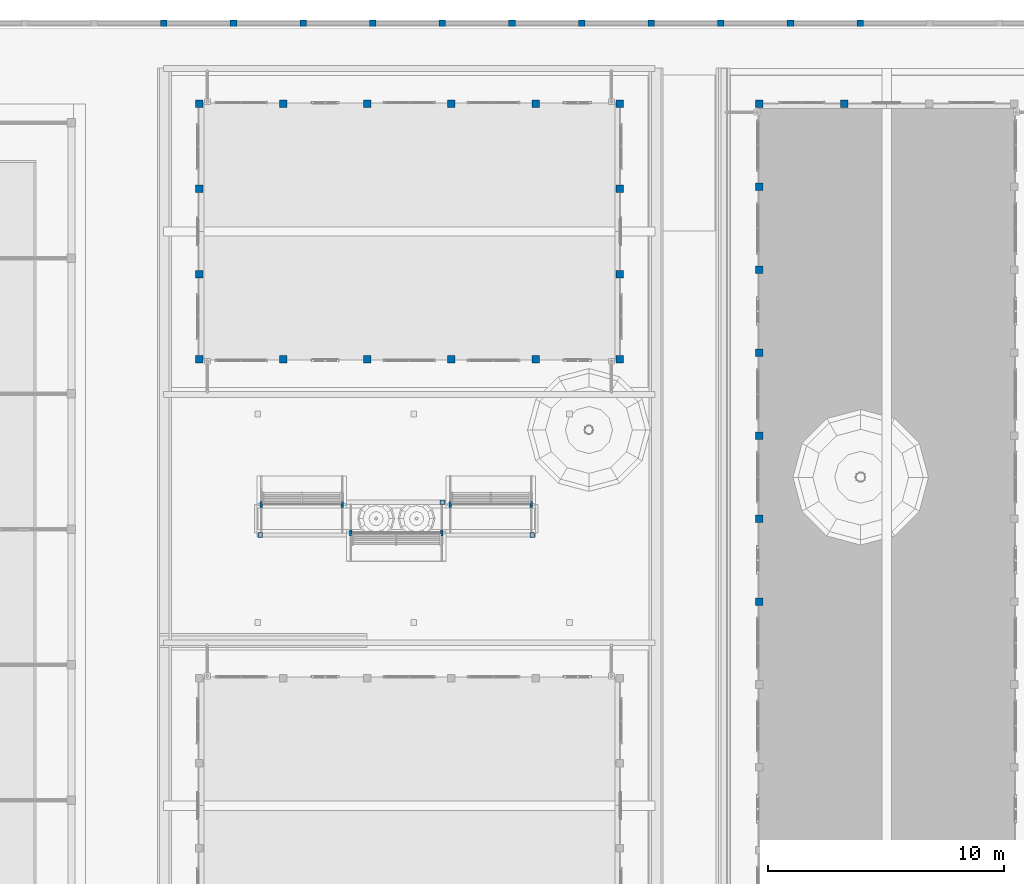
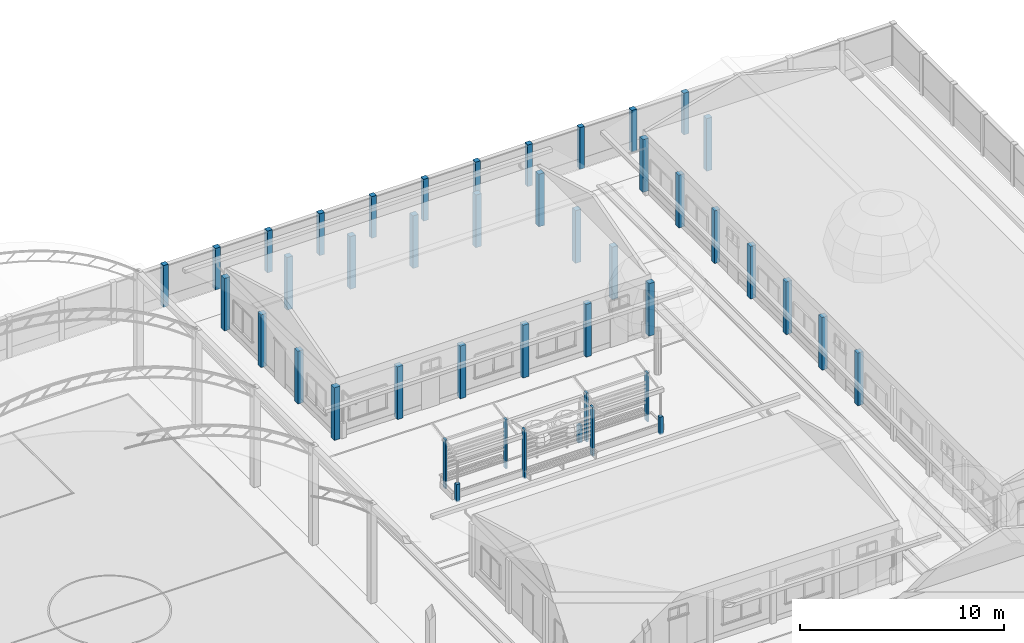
# One storey, part 11 of 177: 49 columns.
"""IFC4 building model written with IfcOpenShell, lengths in metres."""

from ifc_helpers import new_model, si_unit, origin, origin_with_axes, place, context, subcontext, project, spatial, triangles, element, save


model = new_model("IFC4")

# Units and contexts
model_context = context("Model", 3, precision=1e-05, world=origin_with_axes())
body_context = subcontext(model_context, "Body", "Model", "MODEL_VIEW")
ifc_project = project(units=[si_unit("LENGTHUNIT", "METRE"), si_unit("AREAUNIT", "SQUARE_METRE"), si_unit("VOLUMEUNIT", "CUBIC_METRE"), si_unit("PLANEANGLEUNIT", "RADIAN")], contexts=[model_context])

# Site, building, storey
site_placement = place(None, origin_with_axes())
site = spatial("IfcSite", under=ifc_project, at=site_placement, Name="Predio Los Mangos - Morales, San Martín", CompositionType="ELEMENT")
building_placement = place(site_placement, origin())
building = spatial("IfcBuilding", under=site, at=building_placement, Name="Hogar de Refugio Temporal", CompositionType="ELEMENT")
storey_placement = place(building_placement, origin())
storey = spatial("IfcBuildingStorey", under=building, at=storey_placement, Name="NIVEL 1 (NPT +0.00)", CompositionType="ELEMENT", Elevation=0.0)

# Columns
column_1_placement = place(storey_placement, origin())
element("IfcColumn", 1, at=column_1_placement, inside=storey, Name="E-08_col", ObjectType="Columna", PredefinedType="COLUMN", context=body_context, shape_type="Tessellation", body=[
    triangles([(31.84, 116.84, 0.15), (32.16, 116.84, 0.15), (32.16, 117.16, 0.15), (31.84, 117.16, 0.15), (31.84, 116.84, 3.3), (32.16, 116.84, 3.3), (32.16, 117.16, 3.3), (31.84, 117.16, 3.3)], [[1, 4, 3], [1, 3, 2], [5, 6, 7], [5, 7, 8], [1, 2, 6], [1, 6, 5], [2, 3, 7], [2, 7, 6], [3, 4, 8], [3, 8, 7], [4, 1, 5], [4, 5, 8]]),
])
column_2_placement = place(storey_placement, origin())
element("IfcColumn", 2, at=column_2_placement, inside=storey, Name="E-08_col", ObjectType="Columna", PredefinedType="COLUMN", context=body_context, shape_type="Tessellation", body=[
    triangles([(35.4, 116.84, 0.15), (35.72, 116.84, 0.15), (35.72, 117.16, 0.15), (35.4, 117.16, 0.15), (35.4, 116.84, 3.3), (35.72, 116.84, 3.3), (35.72, 117.16, 3.3), (35.4, 117.16, 3.3)], [[1, 4, 3], [1, 3, 2], [5, 6, 7], [5, 7, 8], [1, 2, 6], [1, 6, 5], [2, 3, 7], [2, 7, 6], [3, 4, 8], [3, 8, 7], [4, 1, 5], [4, 5, 8]]),
])
column_3_placement = place(storey_placement, origin())
element("IfcColumn", 3, at=column_3_placement, inside=storey, Name="E-08_col", ObjectType="Columna", PredefinedType="COLUMN", context=body_context, shape_type="Tessellation", body=[
    triangles([(38.96, 116.84, 0.15), (39.28, 116.84, 0.15), (39.28, 117.16, 0.15), (38.96, 117.16, 0.15), (38.96, 116.84, 3.3), (39.28, 116.84, 3.3), (39.28, 117.16, 3.3), (38.96, 117.16, 3.3)], [[1, 4, 3], [1, 3, 2], [5, 6, 7], [5, 7, 8], [1, 2, 6], [1, 6, 5], [2, 3, 7], [2, 7, 6], [3, 4, 8], [3, 8, 7], [4, 1, 5], [4, 5, 8]]),
])
column_4_placement = place(storey_placement, origin())
element("IfcColumn", 4, at=column_4_placement, inside=storey, Name="E-08_col", ObjectType="Columna", PredefinedType="COLUMN", context=body_context, shape_type="Tessellation", body=[
    triangles([(42.52, 116.84, 0.15), (42.84, 116.84, 0.15), (42.84, 117.16, 0.15), (42.52, 117.16, 0.15), (42.52, 116.84, 3.3), (42.84, 116.84, 3.3), (42.84, 117.16, 3.3), (42.52, 117.16, 3.3)], [[1, 4, 3], [1, 3, 2], [5, 6, 7], [5, 7, 8], [1, 2, 6], [1, 6, 5], [2, 3, 7], [2, 7, 6], [3, 4, 8], [3, 8, 7], [4, 1, 5], [4, 5, 8]]),
])
column_5_placement = place(storey_placement, origin())
element("IfcColumn", 5, at=column_5_placement, inside=storey, Name="E-08_col", ObjectType="Columna", PredefinedType="COLUMN", context=body_context, shape_type="Tessellation", body=[
    triangles([(46.08, 116.84, 0.15), (46.4, 116.84, 0.15), (46.4, 117.16, 0.15), (46.08, 117.16, 0.15), (46.08, 116.84, 3.3), (46.4, 116.84, 3.3), (46.4, 117.16, 3.3), (46.08, 117.16, 3.3)], [[1, 4, 3], [1, 3, 2], [5, 6, 7], [5, 7, 8], [1, 2, 6], [1, 6, 5], [2, 3, 7], [2, 7, 6], [3, 4, 8], [3, 8, 7], [4, 1, 5], [4, 5, 8]]),
])
column_6_placement = place(storey_placement, origin())
element("IfcColumn", 6, at=column_6_placement, inside=storey, Name="E-08_col", ObjectType="Columna", PredefinedType="COLUMN", context=body_context, shape_type="Tessellation", body=[
    triangles([(49.64, 116.84, 0.15), (49.96, 116.84, 0.15), (49.96, 117.16, 0.15), (49.64, 117.16, 0.15), (49.64, 116.84, 3.3), (49.96, 116.84, 3.3), (49.96, 117.16, 3.3), (49.64, 117.16, 3.3)], [[1, 4, 3], [1, 3, 2], [5, 6, 7], [5, 7, 8], [1, 2, 6], [1, 6, 5], [2, 3, 7], [2, 7, 6], [3, 4, 8], [3, 8, 7], [4, 1, 5], [4, 5, 8]]),
])
column_7_placement = place(storey_placement, origin())
element("IfcColumn", 7, at=column_7_placement, inside=storey, Name="E-08_col", ObjectType="Columna", PredefinedType="COLUMN", context=body_context, shape_type="Tessellation", body=[
    triangles([(31.84, 127.64, 0.15), (32.16, 127.64, 0.15), (32.16, 127.96, 0.15), (31.84, 127.96, 0.15), (31.84, 127.64, 3.3), (32.16, 127.64, 3.3), (32.16, 127.96, 3.3), (31.84, 127.96, 3.3)], [[1, 4, 3], [1, 3, 2], [5, 6, 7], [5, 7, 8], [1, 2, 6], [1, 6, 5], [2, 3, 7], [2, 7, 6], [3, 4, 8], [3, 8, 7], [4, 1, 5], [4, 5, 8]]),
])
column_8_placement = place(storey_placement, origin())
element("IfcColumn", 8, at=column_8_placement, inside=storey, Name="E-08_col", ObjectType="Columna", PredefinedType="COLUMN", context=body_context, shape_type="Tessellation", body=[
    triangles([(35.4, 127.64, 0.15), (35.72, 127.64, 0.15), (35.72, 127.96, 0.15), (35.4, 127.96, 0.15), (35.4, 127.64, 3.3), (35.72, 127.64, 3.3), (35.72, 127.96, 3.3), (35.4, 127.96, 3.3)], [[1, 4, 3], [1, 3, 2], [5, 6, 7], [5, 7, 8], [1, 2, 6], [1, 6, 5], [2, 3, 7], [2, 7, 6], [3, 4, 8], [3, 8, 7], [4, 1, 5], [4, 5, 8]]),
])
column_9_placement = place(storey_placement, origin())
element("IfcColumn", 9, at=column_9_placement, inside=storey, Name="E-08_col", ObjectType="Columna", PredefinedType="COLUMN", context=body_context, shape_type="Tessellation", body=[
    triangles([(38.96, 127.64, 0.15), (39.28, 127.64, 0.15), (39.28, 127.96, 0.15), (38.96, 127.96, 0.15), (38.96, 127.64, 3.3), (39.28, 127.64, 3.3), (39.28, 127.96, 3.3), (38.96, 127.96, 3.3)], [[1, 4, 3], [1, 3, 2], [5, 6, 7], [5, 7, 8], [1, 2, 6], [1, 6, 5], [2, 3, 7], [2, 7, 6], [3, 4, 8], [3, 8, 7], [4, 1, 5], [4, 5, 8]]),
])
column_10_placement = place(storey_placement, origin())
element("IfcColumn", 10, at=column_10_placement, inside=storey, Name="E-08_col", ObjectType="Columna", PredefinedType="COLUMN", context=body_context, shape_type="Tessellation", body=[
    triangles([(42.52, 127.64, 0.15), (42.84, 127.64, 0.15), (42.84, 127.96, 0.15), (42.52, 127.96, 0.15), (42.52, 127.64, 3.3), (42.84, 127.64, 3.3), (42.84, 127.96, 3.3), (42.52, 127.96, 3.3)], [[1, 4, 3], [1, 3, 2], [5, 6, 7], [5, 7, 8], [1, 2, 6], [1, 6, 5], [2, 3, 7], [2, 7, 6], [3, 4, 8], [3, 8, 7], [4, 1, 5], [4, 5, 8]]),
])
column_11_placement = place(storey_placement, origin())
element("IfcColumn", 11, at=column_11_placement, inside=storey, Name="E-08_col", ObjectType="Columna", PredefinedType="COLUMN", context=body_context, shape_type="Tessellation", body=[
    triangles([(46.08, 127.64, 0.15), (46.4, 127.64, 0.15), (46.4, 127.96, 0.15), (46.08, 127.96, 0.15), (46.08, 127.64, 3.3), (46.4, 127.64, 3.3), (46.4, 127.96, 3.3), (46.08, 127.96, 3.3)], [[1, 4, 3], [1, 3, 2], [5, 6, 7], [5, 7, 8], [1, 2, 6], [1, 6, 5], [2, 3, 7], [2, 7, 6], [3, 4, 8], [3, 8, 7], [4, 1, 5], [4, 5, 8]]),
])
column_12_placement = place(storey_placement, origin())
element("IfcColumn", 12, at=column_12_placement, inside=storey, Name="E-08_col", ObjectType="Columna", PredefinedType="COLUMN", context=body_context, shape_type="Tessellation", body=[
    triangles([(49.64, 127.64, 0.15), (49.96, 127.64, 0.15), (49.96, 127.96, 0.15), (49.64, 127.96, 0.15), (49.64, 127.64, 3.3), (49.96, 127.64, 3.3), (49.96, 127.96, 3.3), (49.64, 127.96, 3.3)], [[1, 4, 3], [1, 3, 2], [5, 6, 7], [5, 7, 8], [1, 2, 6], [1, 6, 5], [2, 3, 7], [2, 7, 6], [3, 4, 8], [3, 8, 7], [4, 1, 5], [4, 5, 8]]),
])
column_13_placement = place(storey_placement, origin())
element("IfcColumn", 13, at=column_13_placement, inside=storey, Name="E-08_col", ObjectType="Columna", PredefinedType="COLUMN", context=body_context, shape_type="Tessellation", body=[
    triangles([(31.84, 116.84, 0.15), (32.16, 116.84, 0.15), (32.16, 117.16, 0.15), (31.84, 117.16, 0.15), (31.84, 116.84, 3.3), (32.16, 116.84, 3.3), (32.16, 117.16, 3.3), (31.84, 117.16, 3.3)], [[1, 4, 3], [1, 3, 2], [5, 6, 7], [5, 7, 8], [1, 2, 6], [1, 6, 5], [2, 3, 7], [2, 7, 6], [3, 4, 8], [3, 8, 7], [4, 1, 5], [4, 5, 8]]),
])
column_14_placement = place(storey_placement, origin())
element("IfcColumn", 14, at=column_14_placement, inside=storey, Name="E-08_col", ObjectType="Columna", PredefinedType="COLUMN", context=body_context, shape_type="Tessellation", body=[
    triangles([(31.84, 120.44, 0.15), (32.16, 120.44, 0.15), (32.16, 120.76, 0.15), (31.84, 120.76, 0.15), (31.84, 120.44, 3.3), (32.16, 120.44, 3.3), (32.16, 120.76, 3.3), (31.84, 120.76, 3.3)], [[1, 4, 3], [1, 3, 2], [5, 6, 7], [5, 7, 8], [1, 2, 6], [1, 6, 5], [2, 3, 7], [2, 7, 6], [3, 4, 8], [3, 8, 7], [4, 1, 5], [4, 5, 8]]),
])
column_15_placement = place(storey_placement, origin())
element("IfcColumn", 15, at=column_15_placement, inside=storey, Name="E-08_col", ObjectType="Columna", PredefinedType="COLUMN", context=body_context, shape_type="Tessellation", body=[
    triangles([(31.84, 124.04, 0.15), (32.16, 124.04, 0.15), (32.16, 124.36, 0.15), (31.84, 124.36, 0.15), (31.84, 124.04, 3.3), (32.16, 124.04, 3.3), (32.16, 124.36, 3.3), (31.84, 124.36, 3.3)], [[1, 4, 3], [1, 3, 2], [5, 6, 7], [5, 7, 8], [1, 2, 6], [1, 6, 5], [2, 3, 7], [2, 7, 6], [3, 4, 8], [3, 8, 7], [4, 1, 5], [4, 5, 8]]),
])
column_16_placement = place(storey_placement, origin())
element("IfcColumn", 16, at=column_16_placement, inside=storey, Name="E-08_col", ObjectType="Columna", PredefinedType="COLUMN", context=body_context, shape_type="Tessellation", body=[
    triangles([(31.84, 127.64, 0.15), (32.16, 127.64, 0.15), (32.16, 127.96, 0.15), (31.84, 127.96, 0.15), (31.84, 127.64, 3.3), (32.16, 127.64, 3.3), (32.16, 127.96, 3.3), (31.84, 127.96, 3.3)], [[1, 4, 3], [1, 3, 2], [5, 6, 7], [5, 7, 8], [1, 2, 6], [1, 6, 5], [2, 3, 7], [2, 7, 6], [3, 4, 8], [3, 8, 7], [4, 1, 5], [4, 5, 8]]),
])
column_17_placement = place(storey_placement, origin())
element("IfcColumn", 17, at=column_17_placement, inside=storey, Name="E-08_col", ObjectType="Columna", PredefinedType="COLUMN", context=body_context, shape_type="Tessellation", body=[
    triangles([(49.64, 116.84, 0.15), (49.96, 116.84, 0.15), (49.96, 117.16, 0.15), (49.64, 117.16, 0.15), (49.64, 116.84, 3.3), (49.96, 116.84, 3.3), (49.96, 117.16, 3.3), (49.64, 117.16, 3.3)], [[1, 4, 3], [1, 3, 2], [5, 6, 7], [5, 7, 8], [1, 2, 6], [1, 6, 5], [2, 3, 7], [2, 7, 6], [3, 4, 8], [3, 8, 7], [4, 1, 5], [4, 5, 8]]),
])
column_18_placement = place(storey_placement, origin())
element("IfcColumn", 18, at=column_18_placement, inside=storey, Name="E-08_col", ObjectType="Columna", PredefinedType="COLUMN", context=body_context, shape_type="Tessellation", body=[
    triangles([(49.64, 120.44, 0.15), (49.96, 120.44, 0.15), (49.96, 120.76, 0.15), (49.64, 120.76, 0.15), (49.64, 120.44, 3.3), (49.96, 120.44, 3.3), (49.96, 120.76, 3.3), (49.64, 120.76, 3.3)], [[1, 4, 3], [1, 3, 2], [5, 6, 7], [5, 7, 8], [1, 2, 6], [1, 6, 5], [2, 3, 7], [2, 7, 6], [3, 4, 8], [3, 8, 7], [4, 1, 5], [4, 5, 8]]),
])
column_19_placement = place(storey_placement, origin())
element("IfcColumn", 19, at=column_19_placement, inside=storey, Name="E-08_col", ObjectType="Columna", PredefinedType="COLUMN", context=body_context, shape_type="Tessellation", body=[
    triangles([(49.64, 124.04, 0.15), (49.96, 124.04, 0.15), (49.96, 124.36, 0.15), (49.64, 124.36, 0.15), (49.64, 124.04, 3.3), (49.96, 124.04, 3.3), (49.96, 124.36, 3.3), (49.64, 124.36, 3.3)], [[1, 4, 3], [1, 3, 2], [5, 6, 7], [5, 7, 8], [1, 2, 6], [1, 6, 5], [2, 3, 7], [2, 7, 6], [3, 4, 8], [3, 8, 7], [4, 1, 5], [4, 5, 8]]),
])
column_20_placement = place(storey_placement, origin())
element("IfcColumn", 20, at=column_20_placement, inside=storey, Name="E-08_col", ObjectType="Columna", PredefinedType="COLUMN", context=body_context, shape_type="Tessellation", body=[
    triangles([(49.64, 127.64, 0.15), (49.96, 127.64, 0.15), (49.96, 127.96, 0.15), (49.64, 127.96, 0.15), (49.64, 127.64, 3.3), (49.96, 127.64, 3.3), (49.96, 127.96, 3.3), (49.64, 127.96, 3.3)], [[1, 4, 3], [1, 3, 2], [5, 6, 7], [5, 7, 8], [1, 2, 6], [1, 6, 5], [2, 3, 7], [2, 7, 6], [3, 4, 8], [3, 8, 7], [4, 1, 5], [4, 5, 8]]),
])
column_21_placement = place(storey_placement, origin())
element("IfcColumn", 21, at=column_21_placement, inside=storey, Name="E-07_col", ObjectType="Columna", PredefinedType="COLUMN", context=body_context, shape_type="Tessellation", body=[
    triangles([(55.54, 127.64, 0.15), (55.86, 127.64, 0.15), (55.86, 127.96, 0.15), (55.54, 127.96, 0.15), (55.54, 127.64, 3.3), (55.86, 127.64, 3.3), (55.86, 127.96, 3.3), (55.54, 127.96, 3.3)], [[1, 4, 3], [1, 3, 2], [5, 6, 7], [5, 7, 8], [1, 2, 6], [1, 6, 5], [2, 3, 7], [2, 7, 6], [3, 4, 8], [3, 8, 7], [4, 1, 5], [4, 5, 8]]),
])
column_22_placement = place(storey_placement, origin())
element("IfcColumn", 22, at=column_22_placement, inside=storey, Name="E-07_col", ObjectType="Columna", PredefinedType="COLUMN", context=body_context, shape_type="Tessellation", body=[
    triangles([(59.14, 127.64, 0.15), (59.46, 127.64, 0.15), (59.46, 127.96, 0.15), (59.14, 127.96, 0.15), (59.14, 127.64, 3.3), (59.46, 127.64, 3.3), (59.46, 127.96, 3.3), (59.14, 127.96, 3.3)], [[1, 4, 3], [1, 3, 2], [5, 6, 7], [5, 7, 8], [1, 2, 6], [1, 6, 5], [2, 3, 7], [2, 7, 6], [3, 4, 8], [3, 8, 7], [4, 1, 5], [4, 5, 8]]),
])
column_23_placement = place(storey_placement, origin())
element("IfcColumn", 23, at=column_23_placement, inside=storey, Name="E-07_col", ObjectType="Columna", PredefinedType="COLUMN", context=body_context, shape_type="Tessellation", body=[
    triangles([(55.54, 106.58, 0.15), (55.86, 106.58, 0.15), (55.86, 106.9, 0.15), (55.54, 106.9, 0.15), (55.54, 106.58, 3.3), (55.86, 106.58, 3.3), (55.86, 106.9, 3.3), (55.54, 106.9, 3.3)], [[1, 4, 3], [1, 3, 2], [5, 6, 7], [5, 7, 8], [1, 2, 6], [1, 6, 5], [2, 3, 7], [2, 7, 6], [3, 4, 8], [3, 8, 7], [4, 1, 5], [4, 5, 8]]),
])
column_24_placement = place(storey_placement, origin())
element("IfcColumn", 24, at=column_24_placement, inside=storey, Name="E-07_col", ObjectType="Columna", PredefinedType="COLUMN", context=body_context, shape_type="Tessellation", body=[
    triangles([(55.54, 110.09, 0.15), (55.86, 110.09, 0.15), (55.86, 110.41, 0.15), (55.54, 110.41, 0.15), (55.54, 110.09, 3.3), (55.86, 110.09, 3.3), (55.86, 110.41, 3.3), (55.54, 110.41, 3.3)], [[1, 4, 3], [1, 3, 2], [5, 6, 7], [5, 7, 8], [1, 2, 6], [1, 6, 5], [2, 3, 7], [2, 7, 6], [3, 4, 8], [3, 8, 7], [4, 1, 5], [4, 5, 8]]),
])
column_25_placement = place(storey_placement, origin())
element("IfcColumn", 25, at=column_25_placement, inside=storey, Name="E-07_col", ObjectType="Columna", PredefinedType="COLUMN", context=body_context, shape_type="Tessellation", body=[
    triangles([(55.54, 113.6, 0.15), (55.86, 113.6, 0.15), (55.86, 113.92, 0.15), (55.54, 113.92, 0.15), (55.54, 113.6, 3.3), (55.86, 113.6, 3.3), (55.86, 113.92, 3.3), (55.54, 113.92, 3.3)], [[1, 4, 3], [1, 3, 2], [5, 6, 7], [5, 7, 8], [1, 2, 6], [1, 6, 5], [2, 3, 7], [2, 7, 6], [3, 4, 8], [3, 8, 7], [4, 1, 5], [4, 5, 8]]),
])
column_26_placement = place(storey_placement, origin())
element("IfcColumn", 26, at=column_26_placement, inside=storey, Name="E-07_col", ObjectType="Columna", PredefinedType="COLUMN", context=body_context, shape_type="Tessellation", body=[
    triangles([(55.54, 117.11, 0.15), (55.86, 117.11, 0.15), (55.86, 117.43, 0.15), (55.54, 117.43, 0.15), (55.54, 117.11, 3.3), (55.86, 117.11, 3.3), (55.86, 117.43, 3.3), (55.54, 117.43, 3.3)], [[1, 4, 3], [1, 3, 2], [5, 6, 7], [5, 7, 8], [1, 2, 6], [1, 6, 5], [2, 3, 7], [2, 7, 6], [3, 4, 8], [3, 8, 7], [4, 1, 5], [4, 5, 8]]),
])
column_27_placement = place(storey_placement, origin())
element("IfcColumn", 27, at=column_27_placement, inside=storey, Name="E-07_col", ObjectType="Columna", PredefinedType="COLUMN", context=body_context, shape_type="Tessellation", body=[
    triangles([(55.54, 120.62, 0.15), (55.86, 120.62, 0.15), (55.86, 120.94, 0.15), (55.54, 120.94, 0.15), (55.54, 120.62, 3.3), (55.86, 120.62, 3.3), (55.86, 120.94, 3.3), (55.54, 120.94, 3.3)], [[1, 4, 3], [1, 3, 2], [5, 6, 7], [5, 7, 8], [1, 2, 6], [1, 6, 5], [2, 3, 7], [2, 7, 6], [3, 4, 8], [3, 8, 7], [4, 1, 5], [4, 5, 8]]),
])
column_28_placement = place(storey_placement, origin())
element("IfcColumn", 28, at=column_28_placement, inside=storey, Name="E-07_col", ObjectType="Columna", PredefinedType="COLUMN", context=body_context, shape_type="Tessellation", body=[
    triangles([(55.54, 124.13, 0.15), (55.86, 124.13, 0.15), (55.86, 124.45, 0.15), (55.54, 124.45, 0.15), (55.54, 124.13, 3.3), (55.86, 124.13, 3.3), (55.86, 124.45, 3.3), (55.54, 124.45, 3.3)], [[1, 4, 3], [1, 3, 2], [5, 6, 7], [5, 7, 8], [1, 2, 6], [1, 6, 5], [2, 3, 7], [2, 7, 6], [3, 4, 8], [3, 8, 7], [4, 1, 5], [4, 5, 8]]),
])
column_29_placement = place(storey_placement, origin())
element("IfcColumn", 29, at=column_29_placement, inside=storey, Name="E-07_col", ObjectType="Columna", PredefinedType="COLUMN", context=body_context, shape_type="Tessellation", body=[
    triangles([(55.54, 127.64, 0.15), (55.86, 127.64, 0.15), (55.86, 127.96, 0.15), (55.54, 127.96, 0.15), (55.54, 127.64, 3.3), (55.86, 127.64, 3.3), (55.86, 127.96, 3.3), (55.54, 127.96, 3.3)], [[1, 4, 3], [1, 3, 2], [5, 6, 7], [5, 7, 8], [1, 2, 6], [1, 6, 5], [2, 3, 7], [2, 7, 6], [3, 4, 8], [3, 8, 7], [4, 1, 5], [4, 5, 8]]),
])
column_30_placement = place(storey_placement, origin())
element("IfcColumn", 30, at=column_30_placement, inside=storey, Name="columna_cerco", ObjectType="Columna", PredefinedType="COLUMN", context=body_context, shape_type="Tessellation", body=[
    triangles([(60.115, 131.35, 0.0), (59.835, 131.35, 0.0), (59.835, 131.07, 0.0), (60.115, 131.07, 0.0), (60.115, 131.35, 2.5), (59.835, 131.35, 2.5), (59.835, 131.07, 2.5), (60.115, 131.07, 2.5)], [[1, 4, 3], [1, 3, 2], [5, 6, 7], [5, 7, 8], [1, 2, 6], [1, 6, 5], [2, 3, 7], [2, 7, 6], [3, 4, 8], [3, 8, 7], [4, 1, 5], [4, 5, 8]]),
])
column_31_placement = place(storey_placement, origin())
element("IfcColumn", 31, at=column_31_placement, inside=storey, Name="columna_cerco", ObjectType="Columna", PredefinedType="COLUMN", context=body_context, shape_type="Tessellation", body=[
    triangles([(57.1688, 131.35, 0.0), (56.8888, 131.35, 0.0), (56.8888, 131.07, 0.0), (57.1688, 131.07, 0.0), (57.1688, 131.35, 2.5), (56.8888, 131.35, 2.5), (56.8888, 131.07, 2.5), (57.1688, 131.07, 2.5)], [[1, 4, 3], [1, 3, 2], [5, 6, 7], [5, 7, 8], [1, 2, 6], [1, 6, 5], [2, 3, 7], [2, 7, 6], [3, 4, 8], [3, 8, 7], [4, 1, 5], [4, 5, 8]]),
])
column_32_placement = place(storey_placement, origin())
element("IfcColumn", 32, at=column_32_placement, inside=storey, Name="columna_cerco", ObjectType="Columna", PredefinedType="COLUMN", context=body_context, shape_type="Tessellation", body=[
    triangles([(54.2225, 131.35, 0.0), (53.9425, 131.35, 0.0), (53.9425, 131.07, 0.0), (54.2225, 131.07, 0.0), (54.2225, 131.35, 2.5), (53.9425, 131.35, 2.5), (53.9425, 131.07, 2.5), (54.2225, 131.07, 2.5)], [[1, 4, 3], [1, 3, 2], [5, 6, 7], [5, 7, 8], [1, 2, 6], [1, 6, 5], [2, 3, 7], [2, 7, 6], [3, 4, 8], [3, 8, 7], [4, 1, 5], [4, 5, 8]]),
])
column_33_placement = place(storey_placement, origin())
element("IfcColumn", 33, at=column_33_placement, inside=storey, Name="columna_cerco", ObjectType="Columna", PredefinedType="COLUMN", context=body_context, shape_type="Tessellation", body=[
    triangles([(51.2762, 131.35, 0.0), (50.9963, 131.35, 0.0), (50.9963, 131.07, 0.0), (51.2762, 131.07, 0.0), (51.2762, 131.35, 2.5), (50.9963, 131.35, 2.5), (50.9963, 131.07, 2.5), (51.2762, 131.07, 2.5)], [[1, 4, 3], [1, 3, 2], [5, 6, 7], [5, 7, 8], [1, 2, 6], [1, 6, 5], [2, 3, 7], [2, 7, 6], [3, 4, 8], [3, 8, 7], [4, 1, 5], [4, 5, 8]]),
])
column_34_placement = place(storey_placement, origin())
element("IfcColumn", 34, at=column_34_placement, inside=storey, Name="columna_cerco", ObjectType="Columna", PredefinedType="COLUMN", context=body_context, shape_type="Tessellation", body=[
    triangles([(48.33, 131.35, 0.0), (48.05, 131.35, 0.0), (48.05, 131.07, 0.0), (48.33, 131.07, 0.0), (48.33, 131.35, 2.5), (48.05, 131.35, 2.5), (48.05, 131.07, 2.5), (48.33, 131.07, 2.5)], [[1, 4, 3], [1, 3, 2], [5, 6, 7], [5, 7, 8], [1, 2, 6], [1, 6, 5], [2, 3, 7], [2, 7, 6], [3, 4, 8], [3, 8, 7], [4, 1, 5], [4, 5, 8]]),
])
column_35_placement = place(storey_placement, origin())
element("IfcColumn", 35, at=column_35_placement, inside=storey, Name="columna_cerco", ObjectType="Columna", PredefinedType="COLUMN", context=body_context, shape_type="Tessellation", body=[
    triangles([(45.3838, 131.35, 0.0), (45.1038, 131.35, 0.0), (45.1038, 131.07, 0.0), (45.3838, 131.07, 0.0), (45.3838, 131.35, 2.5), (45.1038, 131.35, 2.5), (45.1038, 131.07, 2.5), (45.3838, 131.07, 2.5)], [[1, 4, 3], [1, 3, 2], [5, 6, 7], [5, 7, 8], [1, 2, 6], [1, 6, 5], [2, 3, 7], [2, 7, 6], [3, 4, 8], [3, 8, 7], [4, 1, 5], [4, 5, 8]]),
])
column_36_placement = place(storey_placement, origin())
element("IfcColumn", 36, at=column_36_placement, inside=storey, Name="columna_cerco", ObjectType="Columna", PredefinedType="COLUMN", context=body_context, shape_type="Tessellation", body=[
    triangles([(42.4375, 131.35, 0.0), (42.1575, 131.35, 0.0), (42.1575, 131.07, 0.0), (42.4375, 131.07, 0.0), (42.4375, 131.35, 2.5), (42.1575, 131.35, 2.5), (42.1575, 131.07, 2.5), (42.4375, 131.07, 2.5)], [[1, 4, 3], [1, 3, 2], [5, 6, 7], [5, 7, 8], [1, 2, 6], [1, 6, 5], [2, 3, 7], [2, 7, 6], [3, 4, 8], [3, 8, 7], [4, 1, 5], [4, 5, 8]]),
])
column_37_placement = place(storey_placement, origin())
element("IfcColumn", 37, at=column_37_placement, inside=storey, Name="columna_cerco", ObjectType="Columna", PredefinedType="COLUMN", context=body_context, shape_type="Tessellation", body=[
    triangles([(39.4912, 131.35, 0.0), (39.2113, 131.35, 0.0), (39.2113, 131.07, 0.0), (39.4912, 131.07, 0.0), (39.4912, 131.35, 2.5), (39.2113, 131.35, 2.5), (39.2113, 131.07, 2.5), (39.4912, 131.07, 2.5)], [[1, 4, 3], [1, 3, 2], [5, 6, 7], [5, 7, 8], [1, 2, 6], [1, 6, 5], [2, 3, 7], [2, 7, 6], [3, 4, 8], [3, 8, 7], [4, 1, 5], [4, 5, 8]]),
])
column_38_placement = place(storey_placement, origin())
element("IfcColumn", 38, at=column_38_placement, inside=storey, Name="columna_cerco", ObjectType="Columna", PredefinedType="COLUMN", context=body_context, shape_type="Tessellation", body=[
    triangles([(36.545, 131.35, 0.0), (36.265, 131.35, 0.0), (36.265, 131.07, 0.0), (36.545, 131.07, 0.0), (36.545, 131.35, 2.5), (36.265, 131.35, 2.5), (36.265, 131.07, 2.5), (36.545, 131.07, 2.5)], [[1, 4, 3], [1, 3, 2], [5, 6, 7], [5, 7, 8], [1, 2, 6], [1, 6, 5], [2, 3, 7], [2, 7, 6], [3, 4, 8], [3, 8, 7], [4, 1, 5], [4, 5, 8]]),
])
column_39_placement = place(storey_placement, origin())
element("IfcColumn", 39, at=column_39_placement, inside=storey, Name="columna_cerco", ObjectType="Columna", PredefinedType="COLUMN", context=body_context, shape_type="Tessellation", body=[
    triangles([(33.5988, 131.35, 0.0), (33.3188, 131.35, 0.0), (33.3188, 131.07, 0.0), (33.5988, 131.07, 0.0), (33.5988, 131.35, 2.5), (33.3188, 131.35, 2.5), (33.3188, 131.07, 2.5), (33.5988, 131.07, 2.5)], [[1, 4, 3], [1, 3, 2], [5, 6, 7], [5, 7, 8], [1, 2, 6], [1, 6, 5], [2, 3, 7], [2, 7, 6], [3, 4, 8], [3, 8, 7], [4, 1, 5], [4, 5, 8]]),
])
column_40_placement = place(storey_placement, origin())
element("IfcColumn", 40, at=column_40_placement, inside=storey, Name="columna_cerco", ObjectType="Columna", PredefinedType="COLUMN", context=body_context, shape_type="Tessellation", body=[
    triangles([(30.6525, 131.35, 0.0), (30.3725, 131.35, 0.0), (30.3725, 131.07, 0.0), (30.6525, 131.07, 0.0), (30.6525, 131.35, 2.5), (30.3725, 131.35, 2.5), (30.3725, 131.07, 2.5), (30.6525, 131.07, 2.5)], [[1, 4, 3], [1, 3, 2], [5, 6, 7], [5, 7, 8], [1, 2, 6], [1, 6, 5], [2, 3, 7], [2, 7, 6], [3, 4, 8], [3, 8, 7], [4, 1, 5], [4, 5, 8]]),
])
column_41_placement = place(storey_placement, origin())
element("IfcColumn", 41, at=column_41_placement, inside=storey, Name="oc01_columna", ObjectType="Columna", PredefinedType="COLUMN", context=body_context, shape_type="Tessellation", body=[
    triangles([(46.115, 110.975, 0.0), (46.015, 110.975, 0.0), (46.015, 110.725, 0.0), (46.115, 110.725, 0.0), (46.115, 110.975, 2.93), (46.015, 110.975, 2.93), (46.015, 110.725, 2.93), (46.115, 110.725, 2.93)], [[1, 4, 3], [1, 3, 2], [5, 6, 7], [5, 7, 8], [1, 2, 6], [1, 6, 5], [2, 3, 7], [2, 7, 6], [3, 4, 8], [3, 8, 7], [4, 1, 5], [4, 5, 8]]),
])
column_42_placement = place(storey_placement, origin())
element("IfcColumn", 42, at=column_42_placement, inside=storey, Name="oc01_columna", ObjectType="Columna", PredefinedType="COLUMN", context=body_context, shape_type="Tessellation", body=[
    triangles([(42.685, 110.975, 0.0), (42.585, 110.975, 0.0), (42.585, 110.725, 0.0), (42.685, 110.725, 0.0), (42.685, 110.975, 2.93), (42.585, 110.975, 2.93), (42.585, 110.725, 2.93), (42.685, 110.725, 2.93)], [[1, 4, 3], [1, 3, 2], [5, 6, 7], [5, 7, 8], [1, 2, 6], [1, 6, 5], [2, 3, 7], [2, 7, 6], [3, 4, 8], [3, 8, 7], [4, 1, 5], [4, 5, 8]]),
])
column_43_placement = place(storey_placement, origin())
element("IfcColumn", 43, at=column_43_placement, inside=storey, Name="oc01_falsa_columna", ObjectType="Falsa columna", PredefinedType="COLUMN", context=body_context, shape_type="Tessellation", body=[
    triangles([(46.195, 109.66, 0.0), (45.995, 109.66, 0.0), (45.995, 109.46, 0.0), (46.195, 109.46, 0.0), (46.195, 109.66, 1.05), (45.995, 109.66, 1.05), (45.995, 109.46, 1.05), (46.195, 109.46, 1.05)], [[1, 4, 3], [1, 3, 2], [5, 6, 7], [5, 7, 8], [1, 2, 6], [1, 6, 5], [2, 3, 7], [2, 7, 6], [3, 4, 8], [3, 8, 7], [4, 1, 5], [4, 5, 8]]),
])
column_44_placement = place(storey_placement, origin())
element("IfcColumn", 44, at=column_44_placement, inside=storey, Name="oc01_columna", ObjectType="Columna", PredefinedType="COLUMN", context=body_context, shape_type="Tessellation", body=[
    triangles([(42.325, 109.775, 0.0), (42.225, 109.775, 0.0), (42.225, 109.525, 0.0), (42.325, 109.525, 0.0), (42.325, 109.775, 2.93), (42.225, 109.775, 2.93), (42.225, 109.525, 2.93), (42.325, 109.525, 2.93)], [[1, 4, 3], [1, 3, 2], [5, 6, 7], [5, 7, 8], [1, 2, 6], [1, 6, 5], [2, 3, 7], [2, 7, 6], [3, 4, 8], [3, 8, 7], [4, 1, 5], [4, 5, 8]]),
])
column_45_placement = place(storey_placement, origin())
element("IfcColumn", 45, at=column_45_placement, inside=storey, Name="oc01_columna", ObjectType="Columna", PredefinedType="COLUMN", context=body_context, shape_type="Tessellation", body=[
    triangles([(38.475, 109.775, 0.0), (38.375, 109.775, 0.0), (38.375, 109.525, 0.0), (38.475, 109.525, 0.0), (38.475, 109.775, 2.93), (38.375, 109.775, 2.93), (38.375, 109.525, 2.93), (38.475, 109.525, 2.93)], [[1, 4, 3], [1, 3, 2], [5, 6, 7], [5, 7, 8], [1, 2, 6], [1, 6, 5], [2, 3, 7], [2, 7, 6], [3, 4, 8], [3, 8, 7], [4, 1, 5], [4, 5, 8]]),
])
column_46_placement = place(storey_placement, origin())
element("IfcColumn", 46, at=column_46_placement, inside=storey, Name="oc01_falsa_columna", ObjectType="Falsa columna", PredefinedType="COLUMN", context=body_context, shape_type="Tessellation", body=[
    triangles([(42.405, 111.04, 0.0), (42.205, 111.04, 0.0), (42.205, 110.84, 0.0), (42.405, 110.84, 0.0), (42.405, 111.04, 1.05), (42.205, 111.04, 1.05), (42.205, 110.84, 1.05), (42.405, 110.84, 1.05)], [[1, 4, 3], [1, 3, 2], [5, 6, 7], [5, 7, 8], [1, 2, 6], [1, 6, 5], [2, 3, 7], [2, 7, 6], [3, 4, 8], [3, 8, 7], [4, 1, 5], [4, 5, 8]]),
])
column_47_placement = place(storey_placement, origin())
element("IfcColumn", 47, at=column_47_placement, inside=storey, Name="oc01_columna", ObjectType="Columna", PredefinedType="COLUMN", context=body_context, shape_type="Tessellation", body=[
    triangles([(38.115, 110.975, 0.0), (38.015, 110.975, 0.0), (38.015, 110.725, 0.0), (38.115, 110.725, 0.0), (38.115, 110.975, 2.93), (38.015, 110.975, 2.93), (38.015, 110.725, 2.93), (38.115, 110.725, 2.93)], [[1, 4, 3], [1, 3, 2], [5, 6, 7], [5, 7, 8], [1, 2, 6], [1, 6, 5], [2, 3, 7], [2, 7, 6], [3, 4, 8], [3, 8, 7], [4, 1, 5], [4, 5, 8]]),
])
column_48_placement = place(storey_placement, origin())
element("IfcColumn", 48, at=column_48_placement, inside=storey, Name="oc01_columna", ObjectType="Columna", PredefinedType="COLUMN", context=body_context, shape_type="Tessellation", body=[
    triangles([(34.685, 110.975, 0.0), (34.585, 110.975, 0.0), (34.585, 110.725, 0.0), (34.685, 110.725, 0.0), (34.685, 110.975, 2.93), (34.585, 110.975, 2.93), (34.585, 110.725, 2.93), (34.685, 110.725, 2.93)], [[1, 4, 3], [1, 3, 2], [5, 6, 7], [5, 7, 8], [1, 2, 6], [1, 6, 5], [2, 3, 7], [2, 7, 6], [3, 4, 8], [3, 8, 7], [4, 1, 5], [4, 5, 8]]),
])
column_49_placement = place(storey_placement, origin())
element("IfcColumn", 49, at=column_49_placement, inside=storey, Name="oc01_falsa_columna", ObjectType="Falsa columna", PredefinedType="COLUMN", context=body_context, shape_type="Tessellation", body=[
    triangles([(34.695, 109.66, 0.0), (34.495, 109.66, 0.0), (34.495, 109.46, 0.0), (34.695, 109.46, 0.0), (34.695, 109.66, 1.05), (34.495, 109.66, 1.05), (34.495, 109.46, 1.05), (34.695, 109.46, 1.05)], [[1, 4, 3], [1, 3, 2], [5, 6, 7], [5, 7, 8], [1, 2, 6], [1, 6, 5], [2, 3, 7], [2, 7, 6], [3, 4, 8], [3, 8, 7], [4, 1, 5], [4, 5, 8]]),
])

save(model, "model.ifc")
